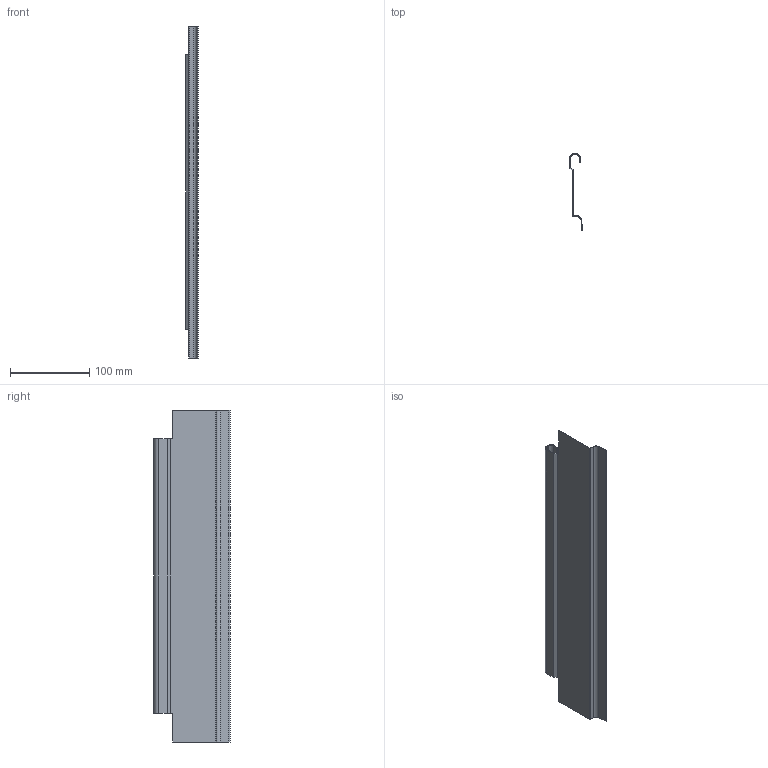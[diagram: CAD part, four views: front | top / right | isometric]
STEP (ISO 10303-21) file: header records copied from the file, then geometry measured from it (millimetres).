
FILE_DESCRIPTION (( 'STEP AP214' ), '1' );
FILE_NAME ('_Solowing NL450.step', '2010-07-14T13:31:55', ( 'grass' ), ( '' ), 'SwSTEP 2.0', 'SolidWorks 2010', '' );
FILE_SCHEMA (( 'AUTOMOTIVE_DESIGN' ));
Length unit declared in the file: millimetre
Products named in the file (1): _Solowing NL450
Bounding box: 16.3 x 96 x 418 mm (x, y, z)
Volume: 38858.1 mm3; surface area: 98012.3 mm2
Topology: 1 solids, 1 shells, 46 faces, 108 edges, 64 vertices
Faces by surface type: plane 36, cylinder 10
Entity records: 1314 total; most frequent: DIRECTION 222, CARTESIAN_POINT 219, ORIENTED_EDGE 216, EDGE_CURVE 108, LINE 88, VECTOR 88, AXIS2_PLACEMENT_3D 67, VERTEX_POINT 64
